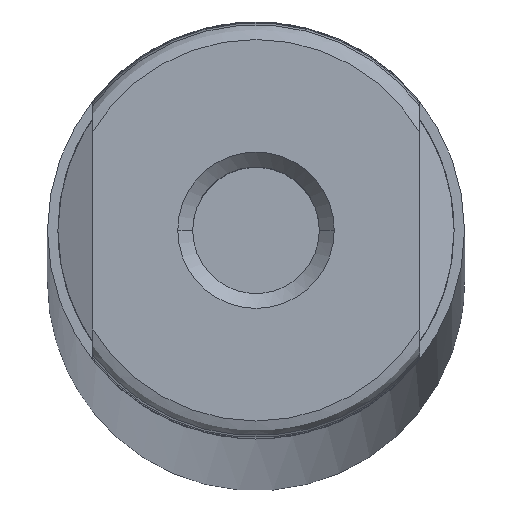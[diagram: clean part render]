
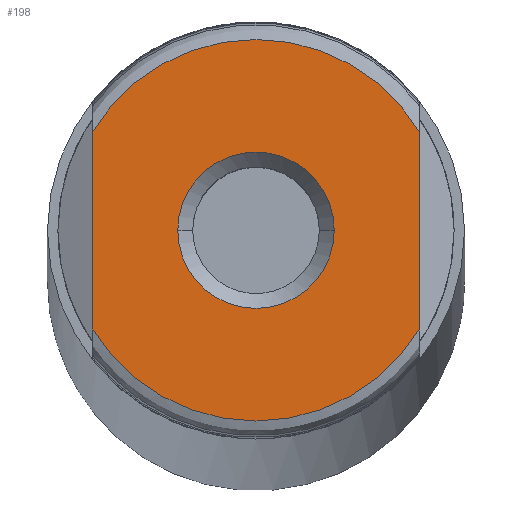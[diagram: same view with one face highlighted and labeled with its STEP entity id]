
A CAD part, top view. The second image highlights one B-rep face of the part: STEP entity #198.
In plain terms, the highlighted planar face has unit normal (0, 0, 1).
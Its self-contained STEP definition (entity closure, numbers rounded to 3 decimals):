
#39 = DIRECTION ( 'NONE',  ( 1., 0., 0. ) ) ;
#40 = DIRECTION ( 'NONE',  ( 0., 0., 1. ) ) ;
#41 = AXIS2_PLACEMENT_3D ( 'NONE', #51, #40, #39 ) ;
#44 = CARTESIAN_POINT ( 'NONE',  ( 5.25, 0., 0. ) ) ;
#45 = CIRCLE ( 'NONE', #41, 5.25 ) ;
#51 = CARTESIAN_POINT ( 'NONE',  ( 0., 0., 0. ) ) ;
#52 = CARTESIAN_POINT ( 'NONE',  ( -5.25, 0., 0. ) ) ;
#192 = EDGE_CURVE ( 'NONE', #197, #273, #862, .T. ) ;
#197 = VERTEX_POINT ( 'NONE', #852 ) ;
#198 = ADVANCED_FACE ( 'NONE', ( #851, #850 ), #849, .F. ) ;
#199 = EDGE_LOOP ( 'NONE', ( #200, #203 ) ) ;
#200 = ORIENTED_EDGE ( 'NONE', *, *, #201, .F. ) ;
#201 = EDGE_CURVE ( 'NONE', #667, #664, #844, .T. ) ;
#202 = EDGE_LOOP ( 'NONE', ( #204, #205, #211, #241 ) ) ;
#203 = ORIENTED_EDGE ( 'NONE', *, *, #666, .F. ) ;
#204 = ORIENTED_EDGE ( 'NONE', *, *, #192, .T. ) ;
#205 = ORIENTED_EDGE ( 'NONE', *, *, #206, .T. ) ;
#206 = EDGE_CURVE ( 'NONE', #273, #207, #839, .T. ) ;
#207 = VERTEX_POINT ( 'NONE', #835 ) ;
#211 = ORIENTED_EDGE ( 'NONE', *, *, #240, .T. ) ;
#212 = VERTEX_POINT ( 'NONE', #833 ) ;
#240 = EDGE_CURVE ( 'NONE', #207, #212, #827, .T. ) ;
#241 = ORIENTED_EDGE ( 'NONE', *, *, #242, .F. ) ;
#242 = EDGE_CURVE ( 'NONE', #197, #212, #817, .T. ) ;
#273 = VERTEX_POINT ( 'NONE', #1101 ) ;
#664 = VERTEX_POINT ( 'NONE', #52 ) ;
#666 = EDGE_CURVE ( 'NONE', #664, #667, #45, .T. ) ;
#667 = VERTEX_POINT ( 'NONE', #44 ) ;
#814 = DIRECTION ( 'NONE',  ( 0., 1., 0. ) ) ;
#815 = VECTOR ( 'NONE', #814, 1000. ) ;
#816 = CARTESIAN_POINT ( 'NONE',  ( -11., -14., 0. ) ) ;
#817 = LINE ( 'NONE', #816, #815 ) ;
#818 = DIRECTION ( 'NONE',  ( 1., 0., 0. ) ) ;
#819 = DIRECTION ( 'NONE',  ( 0., 0., 1. ) ) ;
#820 = AXIS2_PLACEMENT_3D ( 'NONE', #825, #819, #818 ) ;
#825 = CARTESIAN_POINT ( 'NONE',  ( 0., 0., 0. ) ) ;
#827 = CIRCLE ( 'NONE', #820, 12.808 ) ;
#833 = CARTESIAN_POINT ( 'NONE',  ( -11., 6.56, 0. ) ) ;
#835 = CARTESIAN_POINT ( 'NONE',  ( 11., 6.56, 0. ) ) ;
#836 = DIRECTION ( 'NONE',  ( 0., 1., 0. ) ) ;
#837 = VECTOR ( 'NONE', #836, 1000. ) ;
#838 = CARTESIAN_POINT ( 'NONE',  ( 11., -14., 0. ) ) ;
#839 = LINE ( 'NONE', #838, #837 ) ;
#840 = DIRECTION ( 'NONE',  ( 1., 0., 0. ) ) ;
#841 = DIRECTION ( 'NONE',  ( 0., 0., 1. ) ) ;
#842 = CARTESIAN_POINT ( 'NONE',  ( 0., 0., 0. ) ) ;
#843 = AXIS2_PLACEMENT_3D ( 'NONE', #842, #841, #840 ) ;
#844 = CIRCLE ( 'NONE', #843, 5.25 ) ;
#845 = DIRECTION ( 'NONE',  ( -1., 0., 0. ) ) ;
#846 = DIRECTION ( 'NONE',  ( 0., 0., -1. ) ) ;
#847 = CARTESIAN_POINT ( 'NONE',  ( 0., 0., 0. ) ) ;
#848 = AXIS2_PLACEMENT_3D ( 'NONE', #847, #846, #845 ) ;
#849 = PLANE ( 'NONE',  #848 ) ;
#850 = FACE_OUTER_BOUND ( 'NONE', #202, .T. ) ;
#851 = FACE_BOUND ( 'NONE', #199, .T. ) ;
#852 = CARTESIAN_POINT ( 'NONE',  ( -11., -6.56, 0. ) ) ;
#857 = DIRECTION ( 'NONE',  ( 1., 0., 0. ) ) ;
#858 = DIRECTION ( 'NONE',  ( 0., 0., 1. ) ) ;
#859 = CARTESIAN_POINT ( 'NONE',  ( 0., 0., 0. ) ) ;
#861 = AXIS2_PLACEMENT_3D ( 'NONE', #859, #858, #857 ) ;
#862 = CIRCLE ( 'NONE', #861, 12.808 ) ;
#1101 = CARTESIAN_POINT ( 'NONE',  ( 11., -6.56, 0. ) ) ;
